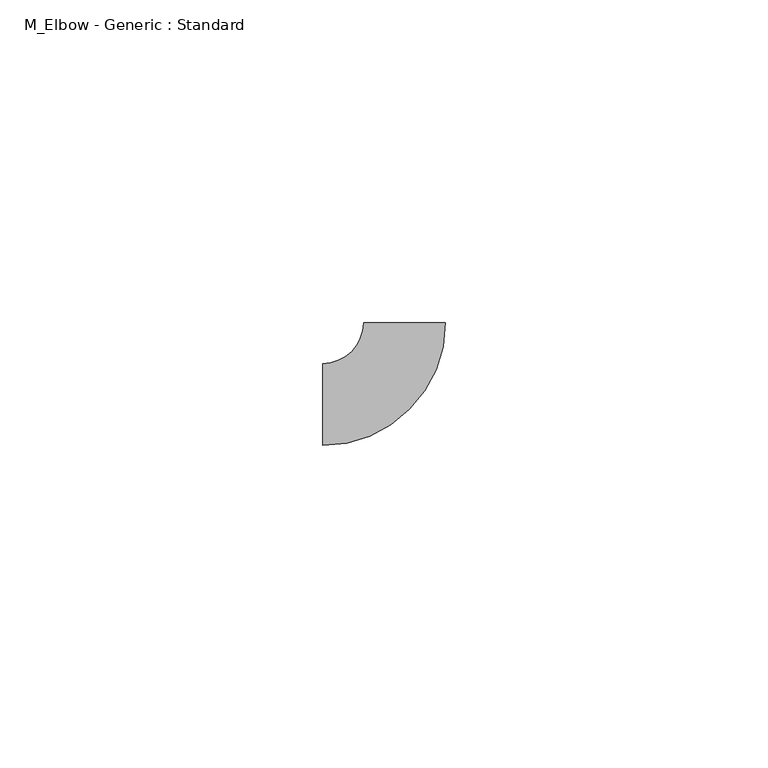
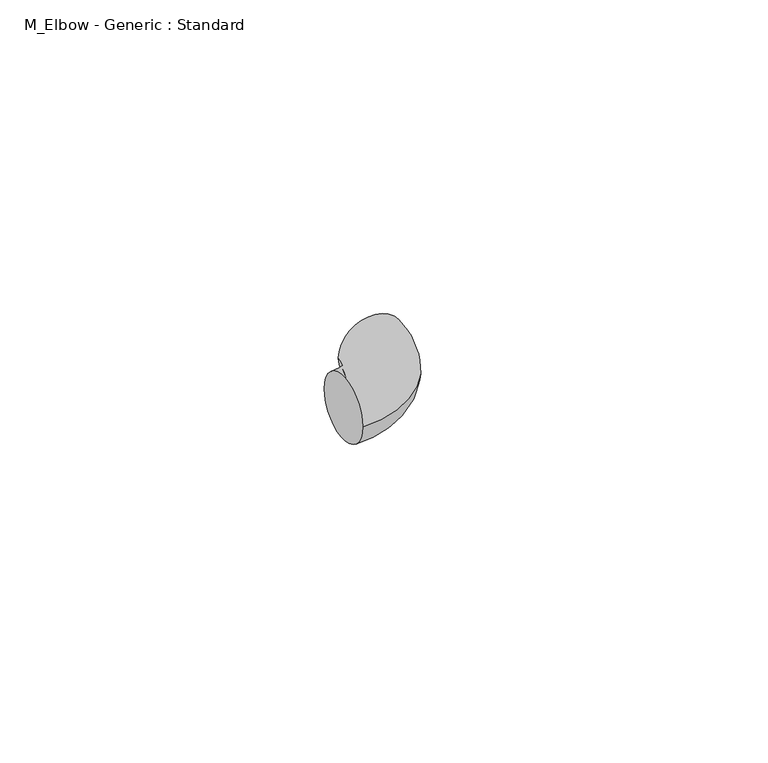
"""IFC4 building model written with IfcOpenShell, lengths in millimetres: pipe fitting geometry, M_Elbow - Generic : Standard."""

from ifc_helpers import new_model, si_unit, point, frame, origin, place, context, project, spatial, circle_curve, ellipse_curve, trimmed, source, transform, mapped, element, save
from ifc_brep_helpers import plane_surface, revolved_surface, advanced_brep


def m_elbow_generic_standard_5acbe53e(model_context):
    return source(origin(), model_context, "Body", "AdvancedBrep", [
        advanced_brep(
        [(-12.6875518, -6.3375, 0.0), (-12.6875518, 6.3375, 0.0), (6.3374482, 12.6875777, 0.0), (-6.3375518, 12.6875259, 0.0)],
        [
            (0, 1, circle_curve(frame((-12.6875518, 0.0, 0.0), z_axis=(-1.0, 0.0, 0.0), x_axis=(0.0, 1.0, 0.0)), 6.3375)),
            (1, 0, circle_curve(frame((-12.6875518, 0.0, 0.0), z_axis=(-1.0, 0.0, 0.0), x_axis=(0.0, 1.0, 0.0)), 6.3375)),
            (2, 3, circle_curve(frame((-5.18e-05, 12.6875518, 0.0), z_axis=(-4.086527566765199e-06, 0.9999999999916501, 0.0), x_axis=(-0.9999999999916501, -4.086527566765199e-06, 0.0)), 6.3375)),
            (3, 2, circle_curve(frame((-5.18e-05, 12.6875518, 0.0), z_axis=(-4.086527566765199e-06, 0.9999999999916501, 0.0), x_axis=(-0.9999999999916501, -4.086527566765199e-06, 0.0)), 6.3375)),
            (3, 1, circle_curve(frame((-12.6875518, 12.6875, 0.0), z_axis=(0.0, 0.0, -1.0), x_axis=(0.0, -1.0, 0.0)), 6.35)),
            (0, 2, circle_curve(frame((-12.6875518, 12.6875, 0.0), z_axis=(0.0, 0.0, 1.0), x_axis=(0.0, -1.0, 0.0)), 19.025)),
        ],
        [
            plane_surface(frame((-12.6875518, 0.0, 0.0), z_axis=(-1.0, 0.0, 0.0), x_axis=(0.0, 0.0, 1.0))),
            plane_surface(frame((-5.18e-05, 12.6875518, 0.0), z_axis=(-4.086527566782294e-06, 0.9999999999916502, 0.0), x_axis=(0.0, 0.0, 1.0))),
            revolved_surface(trimmed(ellipse_curve(frame((-12.6875518, 0.0, 0.0), z_axis=(-1.0, 0.0, 0.0), x_axis=(0.0, 1.0, 0.0)), 6.3375, 6.3375), [point((-12.6875518, -6.3375, 0.0))], [point((-12.6875518, 6.3375, 0.0))], True, "CARTESIAN"), (-12.6875518, 12.6875, 0.0), (0.0, 0.0, 1.0)),
            revolved_surface(trimmed(ellipse_curve(frame((-12.6875518, 0.0, 0.0), z_axis=(-1.0, 0.0, 0.0), x_axis=(0.0, 1.0, 0.0)), 6.3375, 6.3375), [point((-12.6875518, 6.3375, 0.0))], [point((-12.6875518, -6.3375, 0.0))], True, "CARTESIAN"), (-12.6875518, 12.6875, 0.0), (0.0, 0.0, 1.0)),
        ],
        [
            (0, [[1, 2]]),
            (1, [[3, 4]]),
            (2, [[5, -1, 6, -4]]),
            (3, [[-6, -2, -5, -3]]),
        ],
    ),
    ])


if __name__ == "__main__":
    model = new_model("IFC4")
    model_context = context("Model", 3, world=origin())
    ifc_project = project(units=[si_unit("LENGTHUNIT", "METRE", prefix="MILLI")], contexts=[model_context])
    site = spatial("IfcSite", under=ifc_project)
    building = spatial("IfcBuilding", under=site)
    placement = place(None, origin())
    m_elbow_generic_standard_shape = m_elbow_generic_standard_5acbe53e(model_context)
    element("IfcPipeFitting", 1, ObjectType="M_Elbow - Generic : Standard", at=placement, inside=building, context=model_context, shape_type="MappedRepresentation", body=[
        mapped(m_elbow_generic_standard_shape, transform((0.0, 0.0, 0.0), x_axis=(1.0, 0.0, 0.0), y_axis=(0.0, 1.0, 0.0), z_axis=(0.0, 0.0, 1.0))),
    ])
    save(model, "model.ifc")
